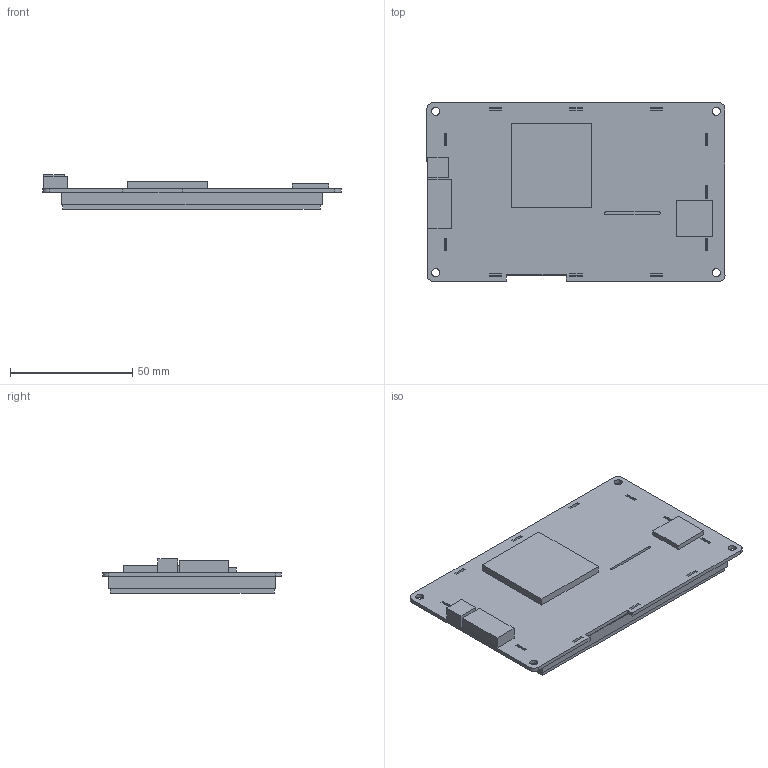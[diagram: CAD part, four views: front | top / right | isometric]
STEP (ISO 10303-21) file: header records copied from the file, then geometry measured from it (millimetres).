
FILE_DESCRIPTION((''),'2;1');
FILE_NAME('DMG48270S043-03W','2022-09-26T',('Administrator'),(''),'PRO/ENGINEER BY PARAMETRIC TECHNOLOGY CORPORATION, 2011310','PRO/ENGINEER BY PARAMETRIC TECHNOLOGY CORPORATION, 2011310','');
FILE_SCHEMA(('CONFIG_CONTROL_DESIGN','SHAPE_APPEARANCE_LAYERS_GROUPS'));
Products named in the file (1): DMG48270S043-03W
Bounding box: 121.93 x 73.15 x 14 mm (x, y, z)
Volume: 65928.5 mm3; surface area: 33489.5 mm2
Topology: 1 solids, 2 shells, 120 faces, 14589 edges, 25160 vertices
Faces by surface type: plane 106, cylinder 14
Entity records: 122610 total; most frequent: DIRECTION 18424, CARTESIAN_POINT 14928, PRESENTATION_STYLE_ASSIGNMENT 14601, STYLED_ITEM 14601, CURVE_STYLE 14594, TRIMMED_CURVE 14250, VECTOR 10996, LINE 10996
